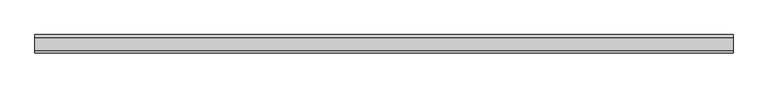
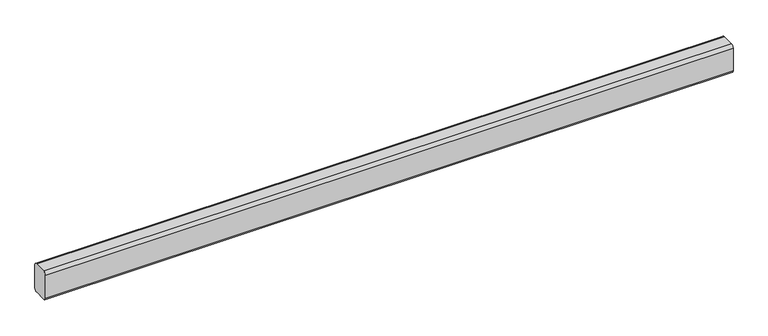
"""IFC4 building model written with IfcOpenShell, lengths in millimetres: proxy geometry, GROUTED CMU CELLS_horizontal : GROUTED CMU CELLS_horizontal."""

from ifc_helpers import new_model, si_unit, point, frame, frame_2d, origin, place, context, project, spatial, polyline, circle_curve, trimmed, segment, composite_curve, outline, extrude, source, transform, mapped, element, save


def generic_models_cae1357b(model_context):
    return source(origin(), model_context, "Body", "SweptSolid", [
        extrude(outline(composite_curve([segment(trimmed(circle_curve(frame_2d((34.925, -66.675)), 15.875), [point((50.8, -66.675))], [point((34.925, -82.55))], False, "CARTESIAN"), True, "CONTINUOUS"), segment(polyline([(34.925, -82.55), (-34.925, -82.55)]), True, "CONTINUOUS"), segment(trimmed(circle_curve(frame_2d((-34.925, -66.675)), 15.875), [point((-34.925, -82.55))], [point((-50.8, -66.675))], False, "CARTESIAN"), True, "CONTINUOUS"), segment(polyline([(-50.8, -66.675), (-50.8, 66.675)]), True, "CONTINUOUS"), segment(trimmed(circle_curve(frame_2d((-34.925, 66.675)), 15.875), [point((-50.8, 66.675))], [point((-34.925, 82.55))], False, "CARTESIAN"), True, "CONTINUOUS"), segment(polyline([(-34.925, 82.55), (34.925, 82.55)]), True, "CONTINUOUS"), segment(trimmed(circle_curve(frame_2d((34.925, 66.675)), 15.875), [point((34.925, 82.55))], [point((50.8, 66.675))], False, "CARTESIAN"), True, "CONTINUOUS"), segment(polyline([(50.8, 66.675), (50.8, -66.675)]), True, "CONTINUOUS")], self_intersect=False)), frame((0.0, 0.0, 0.0), z_axis=(1.0, 0.0, 0.0), x_axis=(0.0, 1.0, 0.0)), (0.0, 0.0, 1.0), 3816.35),
    ])


if __name__ == "__main__":
    model = new_model("IFC4")
    model_context = context("Model", 3, world=origin())
    ifc_project = project(units=[si_unit("LENGTHUNIT", "METRE", prefix="MILLI")], contexts=[model_context])
    site = spatial("IfcSite", under=ifc_project)
    building = spatial("IfcBuilding", under=site)
    placement = place(None, origin())
    generic_models_shape = generic_models_cae1357b(model_context)
    element("IfcBuildingElementProxy", 1, Name="GROUTED CMU CELLS_horizontal : GROUTED CMU CELLS_horizontal", ObjectType="GROUTED CMU CELLS_horizontal : GROUTED CMU CELLS_horizontal", at=placement, inside=building, context=model_context, shape_type="MappedRepresentation", body=[
        mapped(generic_models_shape, transform((0.0, 0.0, 0.0), x_axis=(1.0, 0.0, 0.0), y_axis=(0.0, 1.0, 0.0), z_axis=(0.0, 0.0, 1.0))),
    ])
    save(model, "model.ifc")
